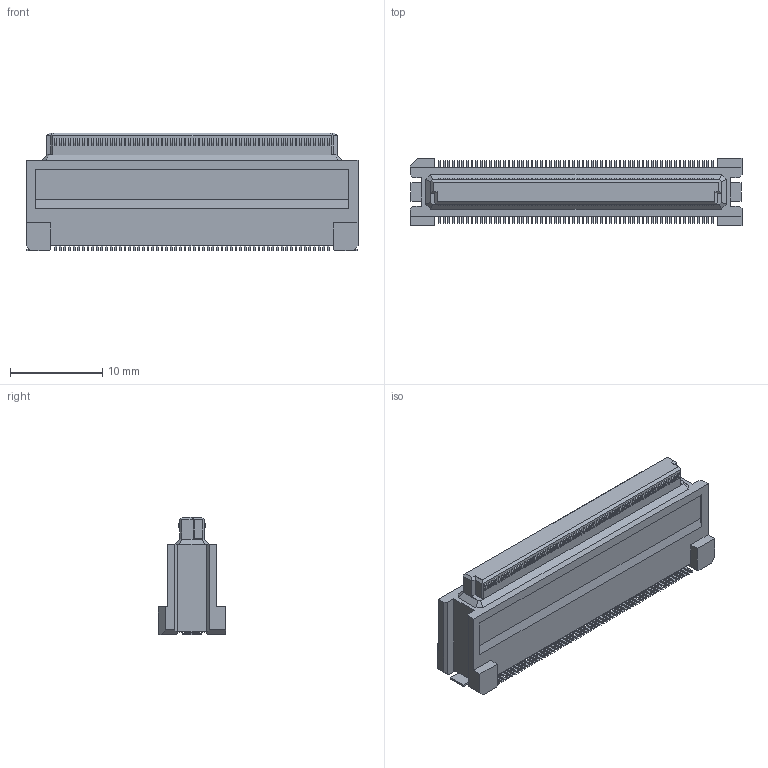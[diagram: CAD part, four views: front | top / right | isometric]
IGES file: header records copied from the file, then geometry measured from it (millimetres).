
Start section: Elysium IGES Interface
Global section: file name: C:\Users\1354\Desktop\P39934_DY10-120FS-4.igs; native system: Creo Elements/Direct Modeling 19.0F  14-Feb-2017; preprocessor: Creo Element/Direct IGES_3D V2.2; author: Unknown; organization: Unknown; date: 20171127.165249; units: millimetre
Bounding box: 35.9 x 7.3 x 12.73 mm (x, y, z)
Volume: 1840.5 mm3; surface area: 1640.4 mm2
Topology: 1 solids, 1 shells, 1710 faces, 4713 edges, 3130 vertices
Faces by surface type: bspline 1710
